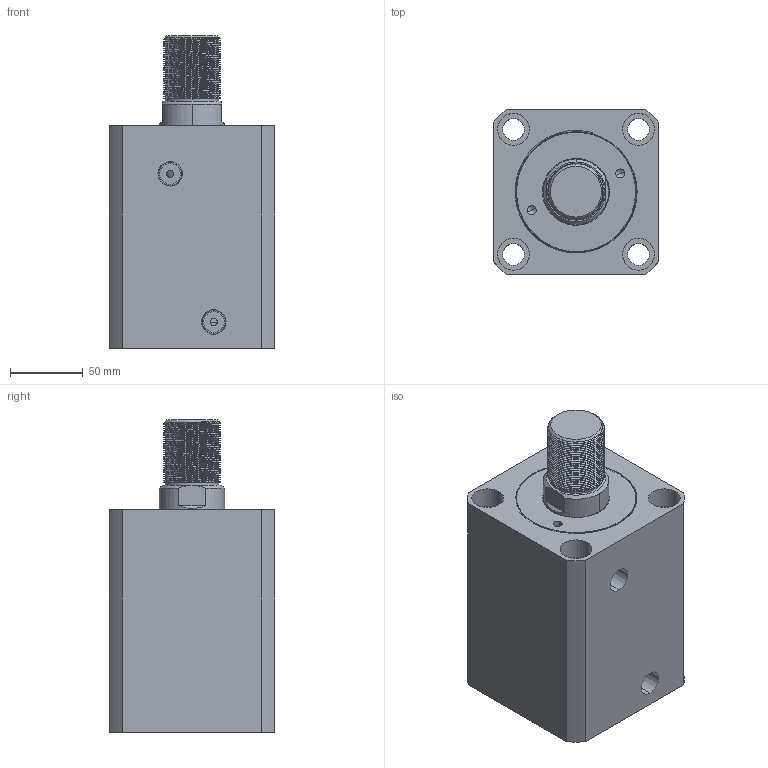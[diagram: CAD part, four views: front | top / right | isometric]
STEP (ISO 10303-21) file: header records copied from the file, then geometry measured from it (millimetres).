
FILE_DESCRIPTION (( 'STEP AP214' ), '1' );
FILE_NAME ('chtb-sd80x75n_asm.STEP', '2018-05-26T08:55:58', ( 'Windows' ), ( 'Microsoft' ), 'SwSTEP 2.0', 'SolidWorks 2015', '' );
FILE_SCHEMA (( 'AUTOMOTIVE_DESIGN' ));
Length unit declared in the file: millimetre
Products named in the file (4): chtb-sd80x75n_asm; CHTB-SD80QG; CHTB-SD80X75NHSG; CHTB-SD80X75NBT
Assembly tree (3 placements, depth 2):
  chtb-sd80x75n_asm
    CHTB-SD80X75NBT
    CHTB-SD80X75NHSG
    CHTB-SD80QG
Bounding box: 114 x 114 x 215 mm (x, y, z)
Volume: 1629651.9 mm3; surface area: 232591.1 mm2
Topology: 3 solids, 3 shells, 253 faces, 689 edges, 462 vertices
Faces by surface type: cylinder 159, plane 40, cone 20, torus 18, bspline 16
Entity records: 20271 total; most frequent: CARTESIAN_POINT 14293, ORIENTED_EDGE 1370, DIRECTION 1078, EDGE_CURVE 685, VERTEX_POINT 462, AXIS2_PLACEMENT_3D 439, EDGE_LOOP 291, FACE_OUTER_BOUND 253
